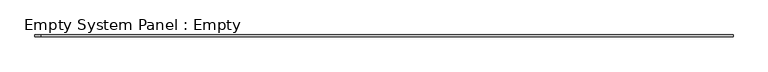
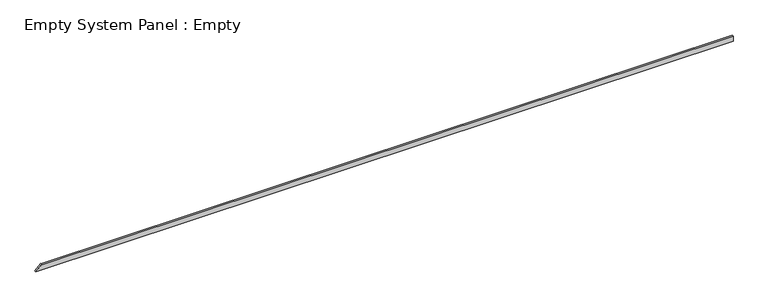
"""IFC4 building model written with IfcOpenShell, lengths in millimetres: plate geometry, Empty System Panel : Empty."""

from ifc_helpers import new_model, si_unit, frame, origin, place, context, project, spatial, polyline, outline, extrude, source, transform, mapped, element, save


def empty_system_panel_empty_cdb567ee(model_context):
    return source(origin(), model_context, "Body", "SweptSolid", [
        extrude(outline(polyline([(0.0, -19620.7103789), (0.0, 19620.7103789), (310.0, 19620.7103789), (310.0, -19294.3613825), (330.0, -19294.3613825), (0.0, -19620.7103789)])), frame((0.0, -50.0, 0.0), z_axis=(0.0, 1.0, 0.0), x_axis=(0.0, 0.0, 1.0)), (0.0, 0.0, 1.0), 100.0),
    ])


if __name__ == "__main__":
    model = new_model("IFC4")
    model_context = context("Model", 3, world=origin())
    ifc_project = project(units=[si_unit("LENGTHUNIT", "METRE", prefix="MILLI")], contexts=[model_context])
    site = spatial("IfcSite", under=ifc_project)
    building = spatial("IfcBuilding", under=site)
    placement = place(None, origin())
    empty_system_panel_empty_shape = empty_system_panel_empty_cdb567ee(model_context)
    element("IfcPlate", 1, ObjectType="Empty System Panel : Empty", at=placement, inside=building, context=model_context, shape_type="MappedRepresentation", body=[
        mapped(empty_system_panel_empty_shape, transform((0.0, 0.0, 0.0), x_axis=(1.0, 0.0, 0.0), y_axis=(0.0, 1.0, 0.0), z_axis=(0.0, 0.0, 1.0))),
    ])
    save(model, "model.ifc")
